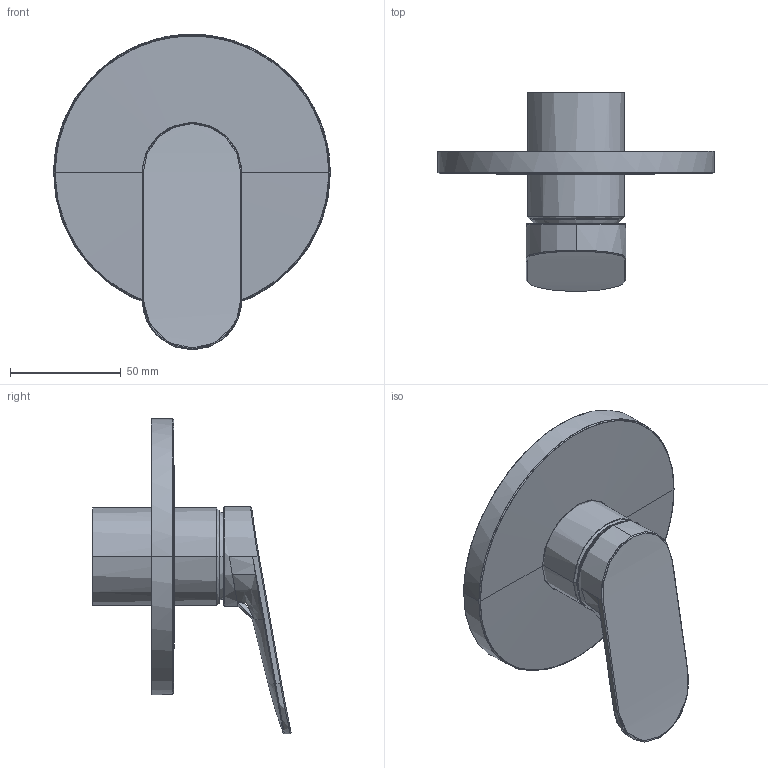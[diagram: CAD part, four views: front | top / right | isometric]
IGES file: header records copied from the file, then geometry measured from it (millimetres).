
Global section: file name: d:\users\matthias.isele\Desktop\Planungsdaten_erstellen\Armaturen\Wave\WA4210007010\3D\WA4210007010.igs; native system: Rhinoceros ( Sep 13 2016 ); preprocessor: Trout Lake IGES 012 Sep 13 2016; date: 230111.100655; units: millimetre
Bounding box: 125 x 89.61 x 142.5 mm (x, y, z)
Surface area: 40578.4 mm2 (no closed solid volume)
Topology: 0 solids, 0 shells, 137 faces, 1076 edges, 1076 vertices
Faces by surface type: bspline 137
